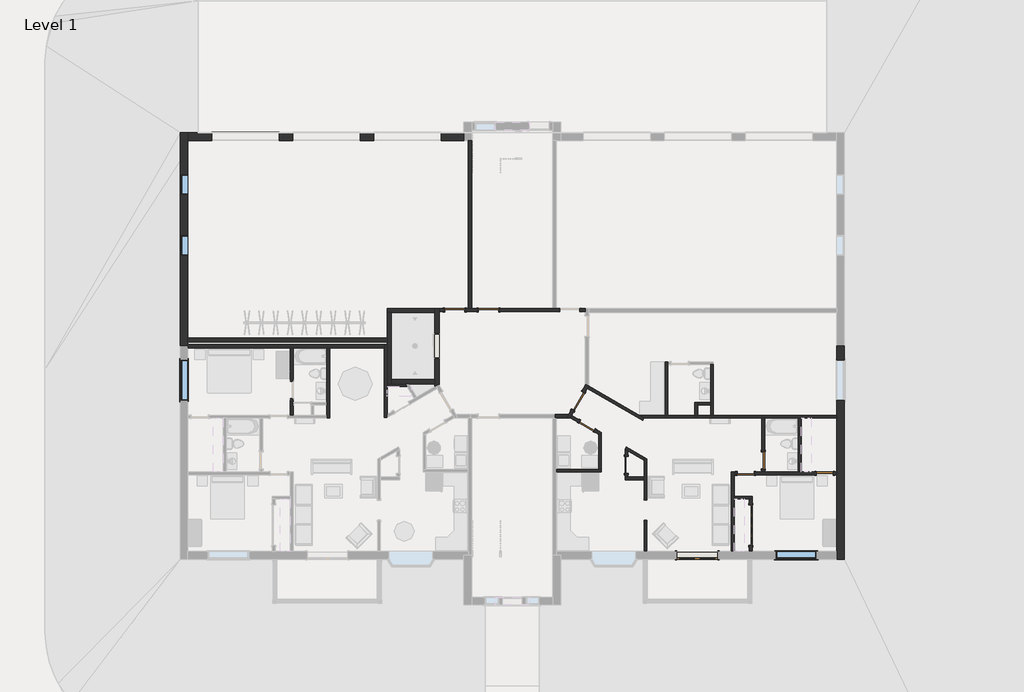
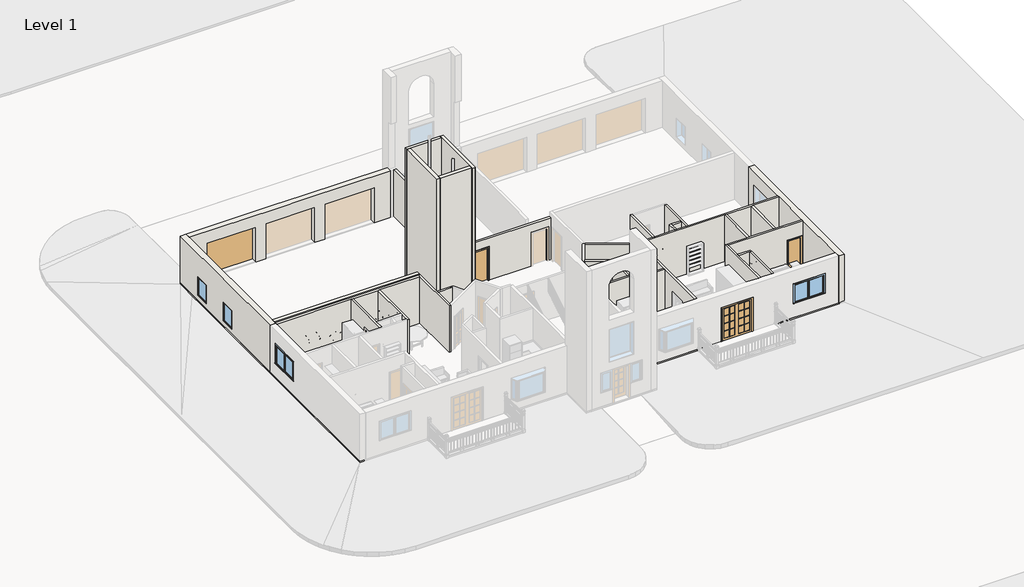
# One storey, part 2 of 4: 38 walls, 11 doors, 4 windows.
"""IFC4 building model written with IfcOpenShell, lengths in millimetres."""

from ifc_helpers import new_model, si_unit, frame, origin, origin_with_axes, place, context, project, spatial, polyline, outline, extrude, faceted_brep, transform, mapped, element, save
from components import door_28b41c19, door_beec499a, door_8fade463, overhead_sectional_10_x_8_f8e7c13f, door_39079f6b, door_e1308624, door_51669b0d, door_3dff5d0e, window_565d5888, window_801eb773, window_15c49d37

model = new_model("IFC4")

# Units and contexts
model_context = context("Model", 3, world=origin())
ifc_project = project(units=[si_unit("LENGTHUNIT", "METRE", prefix="MILLI")], contexts=[model_context])

# Site, building, storey
site = spatial("IfcSite", under=ifc_project)
building = spatial("IfcBuilding", under=site)
storey = spatial("IfcBuildingStorey", under=building, Name="Level 1", Elevation=0.0)

# Doors
placement = place(None, origin())
door_shape = door_28b41c19(model_context)
element("IfcDoor", 1, ObjectType="Bifold-2 Panel : 30\" x 80\"", at=placement, inside=storey, context=model_context, shape_type="MappedRepresentation", body=[
    mapped(door_shape, transform((4512.9374602, -3569.9786799, 0.0), x_axis=(0.0, -1.0, 0.0), y_axis=(1.0, 0.0, 0.0), z_axis=(0.0, 0.0, 1.0))),
])
door_2_shape = door_beec499a(model_context)
element("IfcDoor", 2, ObjectType="Bifold-4 Panel : 72\" x 80\"", at=placement, inside=storey, context=model_context, shape_type="MappedRepresentation", body=[
    mapped(door_2_shape, transform((10123.1624602, -6287.7786799, 0.0), x_axis=(0.0, 1.0, 0.0), y_axis=(-1.0, 0.0, 0.0), z_axis=(0.0, 0.0, 1.0))),
])
door_3_shape = door_8fade463(model_context)
element("IfcDoor", 3, ObjectType="Double-Glass 2 : 72\" x 84\"", at=placement, inside=storey, context=model_context, shape_type="MappedRepresentation", body=[
    mapped(door_3_shape, transform((7708.5749602, -7646.6786799, 0.0), x_axis=(1.0, 0.0, 0.0), y_axis=(0.0, 1.0, 0.0), z_axis=(0.0, 0.0, 1.0))),
])
overhead_sectional_10_x_8_shape = overhead_sectional_10_x_8_f8e7c13f(model_context)
element("IfcDoor", 4, ObjectType="Overhead-Sectional : 10' x 8'", at=placement, inside=storey, context=model_context, shape_type="MappedRepresentation", body=[
    mapped(overhead_sectional_10_x_8_shape, transform((-12668.5750398, 11238.2213201, 0.0), x_axis=(-1.0, 0.0, 0.0), y_axis=(0.0, -1.0, 0.0), z_axis=(0.0, 0.0, 1.0))),
])
door_4_shape = door_39079f6b(model_context)
element("IfcDoor", 5, ObjectType="Single-Flush : 30\" x 80\"", at=placement, inside=storey, context=model_context, shape_type="MappedRepresentation", body=[
    mapped(door_4_shape, transform((9889.7999602, -3954.1536799, 0.0), x_axis=(-1.0, 0.0, 0.0), y_axis=(0.0, -1.0, 0.0), z_axis=(0.0, 0.0, 1.0))),
])
element("IfcDoor", 6, ObjectType="Single-Flush : 30\" x 80\"", at=placement, inside=storey, context=model_context, shape_type="MappedRepresentation", body=[
    mapped(door_4_shape, transform((2740.2368992, -1809.0046321, 0.0), x_axis=(-0.8660254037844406, 0.4999999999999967, 0.0), y_axis=(-0.4999999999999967, -0.8660254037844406, 0.0), z_axis=(0.0, 0.0, 1.0))),
])
element("IfcDoor", 7, ObjectType="Single-Flush : 30\" x 80\"", at=placement, inside=storey, context=model_context, shape_type="MappedRepresentation", body=[
    mapped(door_4_shape, transform((13461.6749602, -3954.1536799, 0.0), x_axis=(1.0, 0.0, 0.0), y_axis=(0.0, 1.0, 0.0), z_axis=(0.0, 0.0, 1.0))),
])
element("IfcDoor", 8, ObjectType="Single-Flush : 30\" x 80\"", at=placement, inside=storey, context=model_context, shape_type="MappedRepresentation", body=[
    mapped(door_4_shape, transform((10685.1374602, -3358.8411799, 0.0), x_axis=(0.0, -1.0, 0.0), y_axis=(1.0, 0.0, 0.0), z_axis=(0.0, 0.0, 1.0))),
])
door_5_shape = door_e1308624(model_context)
element("IfcDoor", 9, ObjectType="Single-Flush : 36\" x 80\"", at=placement, inside=storey, context=model_context, shape_type="MappedRepresentation", body=[
    mapped(door_5_shape, transform((2339.4553258, -687.0786799, 0.0), x_axis=(0.4999999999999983, 0.8660254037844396, 0.0), y_axis=(-0.8660254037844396, 0.4999999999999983, 0.0), z_axis=(0.0, 0.0, 1.0))),
])
door_6_shape = door_51669b0d(model_context)
element("IfcDoor", 10, ObjectType="Single-Flush : 36\" x 84\"", at=placement, inside=storey, context=model_context, shape_type="MappedRepresentation", body=[
    mapped(door_6_shape, transform((-1698.9500398, 3425.0349624, 0.0), x_axis=(-1.0, 0.0, 0.0), y_axis=(0.0, -1.0, 0.0), z_axis=(0.0, 0.0, 1.0))),
])
door_7_shape = door_3dff5d0e(model_context)
element("IfcDoor", 11, ObjectType="Single-Flush : 36\" x 84\"", at=placement, inside=storey, context=model_context, shape_type="MappedRepresentation", body=[
    mapped(door_7_shape, transform((-3226.1250398, 3425.0349624, 0.0), x_axis=(1.0, 0.0, 0.0), y_axis=(0.0, 1.0, 0.0), z_axis=(0.0, 0.0, 1.0))),
])

# Walls
element("IfcWall", 12, ObjectType="Exterior - Brick on Mtl. Stud", at=placement, inside=storey, context=model_context, shape_type="Brep", body=[
    faceted_brep([(-2813.3750398, 11062.0088201, 3048.0), (-8058.4750398, 11062.0088201, 3048.0), (-9887.2750398, 11062.0088201, 3048.0), (-15259.3750398, 11062.0088201, 3048.0), (-15259.3750398, 11062.0088201, 0.0), (-14192.5750398, 11062.0088201, 0.0), (-14192.5750398, 11062.0088201, 2286.0), (-11144.5750398, 11062.0088201, 2286.0), (-11144.5750398, 11062.0088201, 0.0), (-10534.9750398, 11062.0088201, 0.0), (-10534.9750398, 11062.0088201, 2286.0), (-7486.9750398, 11062.0088201, 2286.0), (-7486.9750398, 11062.0088201, 0.0), (-6877.3750398, 11062.0088201, 0.0), (-6877.3750398, 11062.0088201, 2286.0), (-3829.3750398, 11062.0088201, 2286.0), (-3829.3750398, 11062.0088201, 0.0), (-2813.3750398, 11062.0088201, 0.0), (-15259.3750398, 11414.4338201, 3048.0), (-9887.2750398, 11414.4338201, 3048.0), (-8058.4750398, 11414.4338201, 3048.0), (-2813.3750398, 11414.4338201, 3048.0), (-2813.3750398, 11414.4338201, 0.0), (-3829.3750398, 11414.4338201, 0.0), (-3829.3750398, 11414.4338201, 2286.0), (-6877.3750398, 11414.4338201, 2286.0), (-6877.3750398, 11414.4338201, 0.0), (-7486.9750398, 11414.4338201, 0.0), (-7486.9750398, 11414.4338201, 2286.0), (-10534.9750398, 11414.4338201, 2286.0), (-10534.9750398, 11414.4338201, 0.0), (-11144.5750398, 11414.4338201, 0.0), (-11144.5750398, 11414.4338201, 2286.0), (-14192.5750398, 11414.4338201, 2286.0), (-14192.5750398, 11414.4338201, 0.0), (-15259.3750398, 11414.4338201, 0.0), (-2813.3750398, 11238.2213201, 3048.0)], [[[0, 1, 2, 3, 4, 5, 6, 7, 8, 9, 10, 11, 12, 13, 14, 15, 16, 17]], [[18, 19, 20, 21, 22, 23, 24, 25, 26, 27, 28, 29, 30, 31, 32, 33, 34, 35]], [[4, 35, 34, 5]], [[22, 17, 16, 23]], [[8, 31, 30, 9]], [[12, 27, 26, 13]], [[3, 2, 1, 0, 36, 21, 20, 19, 18]], [[4, 3, 18, 35]], [[0, 17, 22, 21, 36]], [[33, 6, 5, 34]], [[6, 33, 32, 7]], [[7, 32, 31, 8]], [[29, 10, 9, 30]], [[10, 29, 28, 11]], [[11, 28, 27, 12]], [[25, 14, 13, 26]], [[14, 25, 24, 15]], [[15, 24, 23, 16]]]),
])
element("IfcWall", 13, ObjectType="Exterior - Brick on Mtl. Stud", at=placement, inside=storey, context=model_context, shape_type="Brep", body=[
    faceted_brep([(-15259.3750398, 1795.7713201, 0.0), (-15259.3750398, 1873.5588201, 0.0), (-15259.3750398, 1975.1588201, 0.0), (-15259.3750398, 2168.8338201, 0.0), (-15259.3750398, 11062.0088201, 0.0), (-15259.3750398, 11414.4338201, 0.0), (-15259.3750398, 11414.4338201, 3048.0), (-15259.3750398, 11062.0088201, 3048.0), (-15259.3750398, 2168.8338201, 3048.0), (-15259.3750398, 1975.1588201, 3048.0), (-15259.3750398, 1873.5588201, 3048.0), (-15259.3750398, 1795.7713201, 3048.0), (-15259.3750398, 6794.8088201, 1524.0), (-15259.3750398, 6794.8088201, 304.8), (-15259.3750398, 5880.4088201, 304.8), (-15259.3750398, 5880.4088201, 1524.0), (-15259.3750398, 9538.0088201, 1524.0), (-15259.3750398, 9538.0088201, 304.8), (-15259.3750398, 8623.6088201, 304.8), (-15259.3750398, 8623.6088201, 1524.0), (-15611.8000398, 1795.7713201, 0.0), (-15611.8000398, 1795.7713201, 3048.0), (-15611.8000398, 11414.4338201, 3048.0), (-15611.8000398, 11414.4338201, 0.0), (-15611.8000398, 6794.8088201, 1524.0), (-15611.8000398, 5880.4088201, 1524.0), (-15611.8000398, 5880.4088201, 304.8), (-15611.8000398, 6794.8088201, 304.8), (-15611.8000398, 9538.0088201, 1524.0), (-15611.8000398, 8623.6088201, 1524.0), (-15611.8000398, 8623.6088201, 304.8), (-15611.8000398, 9538.0088201, 304.8)], [[[0, 1, 2, 3, 4, 5, 6, 7, 8, 9, 10, 11], [12, 13, 14, 15], [16, 17, 18, 19]], [[20, 21, 22, 23], [24, 25, 26, 27], [28, 29, 30, 31]], [[5, 4, 3, 2, 1, 0, 20, 23]], [[11, 10, 9, 8, 7, 6, 22, 21]], [[0, 11, 21, 20]], [[6, 5, 23, 22]], [[13, 12, 24, 27]], [[14, 13, 27, 26]], [[15, 14, 26, 25]], [[12, 15, 25, 24]], [[17, 16, 28, 31]], [[18, 17, 31, 30]], [[19, 18, 30, 29]], [[16, 19, 29, 28]]]),
])
element("IfcWall", 14, ObjectType="Exterior - Brick on Mtl. Stud", at=placement, inside=storey, context=model_context, shape_type="Brep", body=[
    faceted_brep([(13995.0749602, 1795.7713201, 0.0), (13995.0749602, -1330.0161799, 0.0), (13995.0749602, -1453.8411799, 0.0), (13995.0749602, -3892.2411799, 0.0), (13995.0749602, -4016.0661799, 0.0), (13995.0749602, -7470.4661799, 0.0), (13995.0749602, -7822.8911799, 0.0), (13995.0749602, -7822.8911799, 3048.0), (13995.0749602, -7470.4661799, 3048.0), (13995.0749602, -4016.0661799, 3048.0), (13995.0749602, -3892.2411799, 3048.0), (13995.0749602, -1453.8411799, 3048.0), (13995.0749602, -1330.0161799, 3048.0), (13995.0749602, 1795.7713201, 3048.0), (13995.0749602, 1170.2963201, 2133.6), (13995.0749602, -658.5036799, 2133.6), (13995.0749602, -658.5036799, 914.4), (13995.0749602, 1170.2963201, 914.4), (14347.4999602, 1795.7713201, 0.0), (14347.4999602, 1795.7713201, 3048.0), (14347.4999602, -7822.8911799, 3048.0), (14347.4999602, -7822.8911799, 0.0), (14347.4999602, 1170.2963201, 2133.6), (14347.4999602, 1170.2963201, 914.4), (14347.4999602, -658.5036799, 914.4), (14347.4999602, -658.5036799, 2133.6)], [[[0, 1, 2, 3, 4, 5, 6, 7, 8, 9, 10, 11, 12, 13], [14, 15, 16, 17]], [[18, 19, 20, 21], [22, 23, 24, 25]], [[6, 5, 4, 3, 2, 1, 0, 18, 21]], [[13, 12, 11, 10, 9, 8, 7, 20, 19]], [[0, 13, 19, 18]], [[7, 6, 21, 20]], [[23, 22, 14, 17]], [[24, 23, 17, 16]], [[25, 24, 16, 15]], [[22, 25, 15, 14]]]),
])
element("IfcWall", 15, ObjectType="Foundation - 12\" Concrete", at=placement, inside=storey, context=model_context, shape_type="Brep", body=[
    faceted_brep([(-15307.0000398, -7822.8911799, -914.4), (-15307.0000398, -7518.0911799, -914.4), (-15307.0000398, 11109.6338201, -914.4), (-15307.0000398, 11414.4338201, -914.4), (-15307.0000398, 11414.4338201, 0.0), (-15307.0000398, 11109.6338201, 0.0), (-15307.0000398, -7518.0911799, 0.0), (-15307.0000398, -7822.8911799, 0.0), (-15611.8000398, -7822.8911799, -914.4), (-15611.8000398, -7822.8911799, 0.0), (-15611.8000398, 11414.4338201, 0.0), (-15611.8000398, 11414.4338201, -914.4)], [[[0, 1, 2, 3, 4, 5, 6, 7]], [[8, 9, 10, 11]], [[3, 2, 1, 0, 8, 11]], [[7, 6, 5, 4, 10, 9]], [[4, 3, 11, 10]], [[0, 7, 9, 8]]]),
])
element("IfcWall", 16, ObjectType="Foundation - 12\" Concrete", at=placement, inside=storey, context=model_context, shape_type="Brep", body=[
    faceted_brep([(14042.6999602, -7518.0911799, -914.4), (1244.2749602, -7518.0911799, -914.4), (1244.2749602, -7518.0911799, 0.0), (14042.6999602, -7518.0911799, 0.0), (14042.6999602, -7822.8911799, -914.4), (14042.6999602, -7822.8911799, 0.0), (1549.0749602, -7822.8911799, 0.0), (1244.2749602, -7822.8911799, 0.0), (1244.2749602, -7822.8911799, -914.4), (1549.0749602, -7822.8911799, -914.4)], [[[0, 1, 2, 3]], [[4, 5, 6, 7, 8, 9]], [[1, 0, 4, 9, 8]], [[3, 2, 7, 6, 5]], [[0, 3, 5, 4]], [[2, 1, 8, 7]]]),
])
element("IfcWall", 17, ObjectType="Generic - 6\" Masonry", at=placement, inside=storey, context=model_context, shape_type="Brep", body=[
    faceted_brep([(1902.2640513, -1301.4411799, 0.0), (1274.4374602, -1301.4411799, 0.0), (1274.4374602, -1301.4411799, 2743.2), (1196.6499602, -1301.4411799, 2743.2), (1196.6499602, -1301.4411799, 3048.0), (1274.4374602, -1301.4411799, 3048.0), (1902.2640513, -1301.4411799, 3048.0), (1819.7751316, -1444.3161799, 0.0), (1819.7751316, -1444.3161799, 3048.0), (1352.2249602, -1444.3161799, 3048.0), (1274.4374602, -1444.3161799, 3048.0), (1196.6499602, -1444.3161799, 3048.0), (1196.6499602, -1444.3161799, 2743.2), (1274.4374602, -1444.3161799, 2743.2), (1274.4374602, -1444.3161799, 0.0), (1352.2249602, -1444.3161799, 0.0)], [[[0, 1, 2, 3, 4, 5, 6]], [[7, 8, 9, 10, 11, 12, 13, 14, 15]], [[1, 0, 7, 15, 14]], [[6, 5, 4, 11, 10, 9, 8]], [[0, 6, 8, 7]], [[2, 1, 14, 13]], [[12, 3, 2, 13]], [[4, 3, 12, 11]]]),
])
element("IfcWall", 18, ObjectType="Generic - 6\" Masonry", at=placement, inside=storey, context=model_context, shape_type="Brep", body=[
    faceted_brep([(2686.6690032, 57.1880504, 0.0), (2667.5273827, 24.0337913, 0.0), (2506.188636, -255.4131153, 0.0), (2506.188636, -255.4131153, 2032.0), (2048.988636, -1047.3067445, 2032.0), (2048.988636, -1047.3067445, 0.0), (1902.2640513, -1301.4411799, 0.0), (1819.7751316, -1444.3161799, 0.0), (1819.7751316, -1444.3161799, 3048.0), (1902.2640513, -1301.4411799, 3048.0), (2048.988636, -1047.3067445, 3048.0), (2506.188636, -255.4131153, 3048.0), (2667.5273827, 24.0337913, 3048.0), (2686.6690032, 57.1880504, 3048.0), (2629.9220156, -326.8506153, 2032.0), (2629.9220156, -326.8506153, 0.0), (2748.4898827, -121.4850452, 0.0), (2810.4023827, -14.2494496, 0.0), (2810.4023827, -14.2494496, 3048.0), (2748.4898827, -121.4850452, 3048.0), (2629.9220156, -326.8506153, 3048.0), (2172.7220156, -1118.7442445, 3048.0), (2046.665471, -1337.0805843, 3048.0), (1984.752971, -1444.3161799, 3048.0), (1984.752971, -1444.3161799, 0.0), (2046.665471, -1337.0805843, 0.0), (2172.7220156, -1118.7442445, 0.0), (2172.7220156, -1118.7442445, 2032.0)], [[[0, 1, 2, 3, 4, 5, 6, 7, 8, 9, 10, 11, 12, 13]], [[14, 15, 16, 17, 18, 19, 20, 21, 22, 23, 24, 25, 26, 27]], [[17, 16, 15, 2, 1, 0]], [[26, 25, 24, 7, 6, 5]], [[13, 12, 11, 10, 9, 8, 23, 22, 21, 20, 19, 18]], [[8, 7, 24, 23]], [[0, 13, 18, 17]], [[3, 2, 15, 14]], [[4, 3, 14, 27]], [[5, 4, 27, 26]]]),
])
element("IfcWall", 19, ObjectType="Generic - 6\" Masonry", at=placement, inside=storey, context=model_context, shape_type="Brep", body=[
    faceted_brep([(-1241.7500398, 3353.5974624, 0.0), (1504.6249602, 3353.5974624, 0.0), (1504.6249602, 3353.5974624, 2133.6), (2419.0249602, 3353.5974624, 2133.6), (2419.0249602, 3353.5974624, 0.0), (2667.5273827, 3353.5974624, 0.0), (2667.5273827, 3353.5974624, 2743.2), (-3931.8274624, 3353.5974624, 2743.2), (-3931.8274624, 3353.5974624, 0.0), (-3683.3250398, 3353.5974624, 0.0), (-3683.3250398, 3353.5974624, 2133.6), (-2768.9250398, 3353.5974624, 2133.6), (-2768.9250398, 3353.5974624, 0.0), (-2156.1500398, 3353.5974624, 0.0), (-2156.1500398, 3353.5974624, 2133.6), (-1241.7500398, 3353.5974624, 2133.6), (1504.6249602, 3496.4724624, 2133.6), (1504.6249602, 3496.4724624, 0.0), (1352.2249602, 3496.4724624, 0.0), (1196.6499602, 3496.4724624, 0.0), (-1241.7500398, 3496.4724624, 0.0), (-1241.7500398, 3496.4724624, 2133.6), (-2156.1500398, 3496.4724624, 2133.6), (-2156.1500398, 3496.4724624, 0.0), (-2460.9500398, 3496.4724624, 0.0), (-2616.5250398, 3496.4724624, 0.0), (-2768.9250398, 3496.4724624, 0.0), (-2768.9250398, 3496.4724624, 2133.6), (-3683.3250398, 3496.4724624, 2133.6), (-3683.3250398, 3496.4724624, 0.0), (-3931.8274624, 3496.4724624, 0.0), (-3931.8274624, 3496.4724624, 2743.2), (2667.5273827, 3496.4724624, 2743.2), (2667.5273827, 3496.4724624, 0.0), (2419.0249602, 3496.4724624, 0.0), (2419.0249602, 3496.4724624, 2133.6)], [[[0, 1, 2, 3, 4, 5, 6, 7, 8, 9, 10, 11, 12, 13, 14, 15]], [[16, 17, 18, 19, 20, 21, 22, 23, 24, 25, 26, 27, 28, 29, 30, 31, 32, 33, 34, 35]], [[9, 8, 30, 29]], [[13, 12, 26, 25, 24, 23]], [[34, 33, 5, 4]], [[20, 19, 18, 17, 1, 0]], [[14, 13, 23, 22]], [[15, 14, 22, 21]], [[0, 15, 21, 20]], [[8, 7, 31, 30]], [[6, 5, 33, 32]], [[27, 26, 12, 11]], [[28, 27, 11, 10]], [[29, 28, 10, 9]], [[2, 1, 17, 16]], [[3, 2, 16, 35]], [[4, 3, 35, 34]], [[7, 6, 32, 31]]]),
])
element("IfcWall", 20, ObjectType="Generic - 8\" Masonry", at=placement, inside=storey, context=model_context, shape_type="Brep", body=[
    faceted_brep([(-6277.3000398, 3302.7974624, -1219.2), (-6277.3000398, 95.0701778, -1219.2), (-6277.3000398, 95.0701778, 10363.2), (-6277.3000398, 3302.7974624, 10363.2), (-6083.6250398, 3302.7974624, -1219.2), (-6083.6250398, 3302.7974624, 10363.2), (-6083.6250398, 288.7451778, 10363.2), (-6083.6250398, 95.0701778, 10363.2), (-6083.6250398, 95.0701778, -1219.2), (-6083.6250398, 288.7451778, -1219.2)], [[[0, 1, 2, 3]], [[4, 5, 6, 7, 8, 9]], [[1, 0, 4, 9, 8]], [[3, 2, 7, 6, 5]], [[2, 1, 8, 7]], [[0, 3, 5, 4]]]),
])
element("IfcWall", 21, ObjectType="Generic - 8\" Masonry", at=placement, inside=storey, context=model_context, shape_type="SweptSolid", body=[
    extrude(outline(polyline([(-4125.5024624, 95.0701778), (-6083.6250398, 95.0701778), (-6083.6250398, 288.7451778), (-4125.5024624, 288.7451778), (-4125.5024624, 95.0701778)])), frame((0.0, 0.0, -1219.2), z_axis=(0.0, 0.0, 1.0), x_axis=(1.0, 0.0, 0.0)), (0.0, 0.0, 1.0), 11582.4),
])
element("IfcWall", 22, ObjectType="Generic - 8\" Masonry", at=placement, inside=storey, context=model_context, shape_type="Brep", body=[
    faceted_brep([(-6277.3000398, 3302.7974624, -1219.2), (-6083.6250398, 3302.7974624, -1219.2), (-4125.5024624, 3302.7974624, -1219.2), (-4125.5024624, 3302.7974624, 10363.2), (-6083.6250398, 3302.7974624, 10363.2), (-6277.3000398, 3302.7974624, 10363.2), (-6277.3000398, 3496.4724624, -1219.2), (-6277.3000398, 3496.4724624, 10363.2), (-4125.5024624, 3496.4724624, 10363.2), (-4125.5024624, 3496.4724624, -1219.2)], [[[0, 1, 2, 3, 4, 5]], [[6, 7, 8, 9]], [[2, 1, 0, 6, 9]], [[5, 4, 3, 8, 7]], [[0, 5, 7, 6]], [[2, 9, 8, 3]]]),
])
element("IfcWall", 23, ObjectType="Generic - 8\" Masonry", at=placement, inside=storey, context=model_context, shape_type="Brep", body=[
    faceted_brep([(-3931.8274624, 24.0337913, -1219.2), (-3931.8274624, 3496.4724624, -1219.2), (-3931.8274624, 3496.4724624, 0.0), (-3931.8274624, 3496.4724624, 2743.2), (-3931.8274624, 3496.4724624, 10363.2), (-3931.8274624, 24.0337913, 10363.2), (-3931.8274624, 2379.9713201, 2489.2), (-3931.8274624, 2379.9713201, 0.0), (-3931.8274624, 1211.5713201, 0.0), (-3931.8274624, 1211.5713201, 2489.2), (-3931.8274624, 2379.9713201, 5537.2), (-3931.8274624, 2379.9713201, 3048.0), (-3931.8274624, 1211.5713201, 3048.0), (-3931.8274624, 1211.5713201, 5537.2), (-3931.8274624, 2379.9713201, 8585.2), (-3931.8274624, 2379.9713201, 6096.0), (-3931.8274624, 1211.5713201, 6096.0), (-3931.8274624, 1211.5713201, 8585.2), (-4125.5024624, 3496.4724624, -1219.2), (-4125.5024624, 3302.7974624, -1219.2), (-4125.5024624, 288.7451778, -1219.2), (-4125.5024624, 95.0701778, -1219.2), (-4125.5024624, -43.5788433, -1219.2), (-4125.5024624, -43.5788433, 10363.2), (-4125.5024624, 95.0701778, 10363.2), (-4125.5024624, 288.7451778, 10363.2), (-4125.5024624, 3302.7974624, 10363.2), (-4125.5024624, 3496.4724624, 10363.2), (-4125.5024624, 2379.9713201, 0.0), (-4125.5024624, 2379.9713201, 2489.2), (-4125.5024624, 1211.5713201, 2489.2), (-4125.5024624, 1211.5713201, 0.0), (-4125.5024624, 2379.9713201, 3048.0), (-4125.5024624, 2379.9713201, 5537.2), (-4125.5024624, 1211.5713201, 5537.2), (-4125.5024624, 1211.5713201, 3048.0), (-4125.5024624, 2379.9713201, 6096.0), (-4125.5024624, 2379.9713201, 8585.2), (-4125.5024624, 1211.5713201, 8585.2), (-4125.5024624, 1211.5713201, 6096.0), (-3950.9690828, 57.1880504, -1219.2), (-3950.9690828, 57.1880504, 10363.2), (-3950.9690828, 57.1880504, 0.0), (-3950.9690828, 57.1880504, 3048.0), (-3950.9690828, 57.1880504, 6096.0), (-3950.9690828, 57.1880504, 9144.0)], [[[0, 1, 2, 3, 4, 5], [6, 7, 8, 9], [10, 11, 12, 13], [14, 15, 16, 17]], [[18, 19, 20, 21, 22, 23, 24, 25, 26, 27], [28, 29, 30, 31], [32, 33, 34, 35], [36, 37, 38, 39]], [[1, 0, 40, 22, 21, 20, 19, 18]], [[5, 4, 27, 26, 25, 24, 23, 41]], [[28, 7, 6, 29]], [[29, 6, 9, 30]], [[30, 9, 8, 31]], [[7, 28, 31, 8]], [[41, 23, 22, 40, 42, 43, 44, 45]], [[5, 41, 45, 44, 43, 42, 40, 0]], [[33, 32, 11, 10]], [[34, 33, 10, 13]], [[35, 34, 13, 12]], [[32, 35, 12, 11]], [[37, 36, 15, 14]], [[38, 37, 14, 17]], [[39, 38, 17, 16]], [[36, 39, 16, 15]], [[1, 18, 27, 4, 3, 2]]]),
])
element("IfcWall", 24, ObjectType="Generic - 8\" Masonry", at=placement, inside=storey, context=model_context, shape_type="SweptSolid", body=[
    extrude(outline(polyline([(-6277.3000398, 1975.1588201), (-15259.3750398, 1975.1588201), (-15259.3750398, 2168.8338201), (-6277.3000398, 2168.8338201), (-6277.3000398, 1975.1588201)])), origin_with_axes(), (0.0, 0.0, 1.0), 3048.0),
])
element("IfcWall", 25, ObjectType="Interior - 4 7/8\" Partition (1-hr)", at=placement, inside=storey, context=model_context, shape_type="Brep", body=[
    faceted_brep([(-10512.7500398, -1330.0161799, 0.0), (-10512.7500398, -869.6411799, 0.0), (-10512.7500398, -745.8161799, 0.0), (-10512.7500398, -564.8411799, 0.0), (-10512.7500398, -564.8411799, 2032.0), (-10512.7500398, 197.1588201, 2032.0), (-10512.7500398, 197.1588201, 0.0), (-10512.7500398, 1717.9838201, 0.0), (-10512.7500398, 1717.9838201, 3048.0), (-10512.7500398, -745.8161799, 3048.0), (-10512.7500398, -869.6411799, 3048.0), (-10512.7500398, -1330.0161799, 3048.0), (-10636.5750398, -564.8411799, 2032.0), (-10636.5750398, -564.8411799, 0.0), (-10636.5750398, -1330.0161799, 0.0), (-10636.5750398, -1330.0161799, 3048.0), (-10636.5750398, 1717.9838201, 3048.0), (-10636.5750398, 1717.9838201, 0.0), (-10636.5750398, 197.1588201, 0.0), (-10636.5750398, 197.1588201, 2032.0)], [[[0, 1, 2, 3, 4, 5, 6, 7, 8, 9, 10, 11]], [[12, 13, 14, 15, 16, 17, 18, 19]], [[14, 13, 3, 2, 1, 0]], [[18, 17, 7, 6]], [[11, 10, 9, 8, 16, 15]], [[8, 7, 17, 16]], [[0, 11, 15, 14]], [[4, 3, 13, 12]], [[5, 4, 12, 19]], [[6, 5, 19, 18]]]),
])
element("IfcWall", 26, ObjectType="Interior - 4 7/8\" Partition (1-hr)", at=placement, inside=storey, context=model_context, shape_type="Brep", body=[
    faceted_brep([(-8864.9250398, -1453.8411799, 0.0), (-8864.9250398, 1717.9838201, 0.0), (-8864.9250398, 1717.9838201, 3048.0), (-8864.9250398, -1453.8411799, 3048.0), (-8988.7500398, -1453.8411799, 0.0), (-8988.7500398, -1453.8411799, 3048.0), (-8988.7500398, -1330.0161799, 3048.0), (-8988.7500398, -869.6411799, 3048.0), (-8988.7500398, -745.8161799, 3048.0), (-8988.7500398, 1717.9838201, 3048.0), (-8988.7500398, 1717.9838201, 0.0), (-8988.7500398, -745.8161799, 0.0), (-8988.7500398, -869.6411799, 0.0), (-8988.7500398, -1330.0161799, 0.0)], [[[0, 1, 2, 3]], [[4, 5, 6, 7, 8, 9, 10, 11, 12, 13]], [[1, 0, 4, 13, 12, 11, 10]], [[3, 2, 9, 8, 7, 6, 5]], [[0, 3, 5, 4]], [[2, 1, 10, 9]]]),
])
element("IfcWall", 27, ObjectType="Interior - 4 7/8\" Partition (1-hr)", at=placement, inside=storey, context=model_context, shape_type="Brep", body=[
    faceted_brep([(-6277.3000398, -1428.900548, 0.0), (-6277.3000398, -1285.9197539, 0.0), (-6277.3000398, -28.7548222, 0.0), (-6277.3000398, 95.0701778, 0.0), (-6277.3000398, 1873.5588201, 0.0), (-6277.3000398, 1873.5588201, 3048.0), (-6277.3000398, 95.0701778, 3048.0), (-6277.3000398, -28.7548222, 3048.0), (-6277.3000398, -1285.9197539, 3048.0), (-6277.3000398, -1428.900548, 3048.0), (-6401.1250398, -1428.900548, 0.0), (-6401.1250398, -1428.900548, 3048.0), (-6401.1250398, 1717.9838201, 3048.0), (-6401.1250398, 1873.5588201, 3048.0), (-6401.1250398, 1873.5588201, 0.0), (-6401.1250398, 1717.9838201, 0.0)], [[[0, 1, 2, 3, 4, 5, 6, 7, 8, 9]], [[10, 11, 12, 13, 14, 15]], [[4, 3, 2, 1, 0, 10, 15, 14]], [[9, 8, 7, 6, 5, 13, 12, 11]], [[0, 9, 11, 10]], [[5, 4, 14, 13]]]),
])
element("IfcWall", 28, ObjectType="Interior - 4 7/8\" Partition (1-hr)", at=placement, inside=storey, context=model_context, shape_type="SweptSolid", body=[
    extrude(outline(polyline([(-6277.3000398, 95.0701778), (-5439.310023, 95.0701778), (-5367.8196259, -28.7548222), (-6277.3000398, -28.7548222), (-6277.3000398, 95.0701778)])), origin_with_axes(), (0.0, 0.0, 1.0), 3048.0),
])
element("IfcWall", 29, ObjectType="Interior - 4 7/8\" Partition (1-hr)", at=placement, inside=storey, context=model_context, shape_type="Brep", body=[
    faceted_brep([(5438.4499602, -7470.4661799, 0.0), (5438.4499602, -6071.8786799, 0.0), (5438.4499602, -6071.8786799, 2032.0), (5438.4499602, -5157.4786799, 2032.0), (5438.4499602, -5157.4786799, 0.0), (5438.4499602, -3295.3282721, 0.0), (5438.4499602, -3295.3282721, 3048.0), (5438.4499602, -7470.4661799, 3048.0), (5314.6249602, -6071.8786799, 2032.0), (5314.6249602, -6071.8786799, 0.0), (5314.6249602, -7470.4661799, 0.0), (5314.6249602, -7470.4661799, 3048.0), (5314.6249602, -4244.6661799, 3048.0), (5314.6249602, -4120.8411799, 3048.0), (5314.6249602, -3366.8186692, 3048.0), (5314.6249602, -3223.8378751, 3048.0), (5314.6249602, -3223.8378751, 0.0), (5314.6249602, -3366.8186692, 0.0), (5314.6249602, -4120.8411799, 0.0), (5314.6249602, -4244.6661799, 0.0), (5314.6249602, -5157.4786799, 0.0), (5314.6249602, -5157.4786799, 2032.0)], [[[0, 1, 2, 3, 4, 5, 6, 7]], [[8, 9, 10, 11, 12, 13, 14, 15, 16, 17, 18, 19, 20, 21]], [[10, 9, 1, 0]], [[20, 19, 18, 17, 16, 5, 4]], [[7, 6, 15, 14, 13, 12, 11]], [[0, 7, 11, 10]], [[6, 5, 16, 15]], [[4, 3, 21, 20]], [[2, 1, 9, 8]], [[3, 2, 8, 21]]]),
])
element("IfcWall", 30, ObjectType="Interior - 4 7/8\" Partition (1-hr)", at=placement, inside=storey, context=model_context, shape_type="Brep", body=[
    faceted_brep([(9372.2749602, -7470.4661799, 0.0), (9372.2749602, -5105.0911799, 0.0), (9372.2749602, -4981.2661799, 0.0), (9372.2749602, -4016.0661799, 0.0), (9372.2749602, -3892.2411799, 0.0), (9372.2749602, -3892.2411799, 3048.0), (9372.2749602, -4016.0661799, 3048.0), (9372.2749602, -4981.2661799, 3048.0), (9372.2749602, -5105.0911799, 3048.0), (9372.2749602, -7470.4661799, 3048.0), (9248.4499602, -7470.4661799, 0.0), (9248.4499602, -7470.4661799, 3048.0), (9248.4499602, -3892.2411799, 3048.0), (9248.4499602, -3892.2411799, 0.0)], [[[0, 1, 2, 3, 4, 5, 6, 7, 8, 9]], [[10, 11, 12, 13]], [[4, 3, 2, 1, 0, 10, 13]], [[9, 8, 7, 6, 5, 12, 11]], [[5, 4, 13, 12]], [[0, 9, 11, 10]]]),
])
element("IfcWall", 31, ObjectType="Interior - 4 7/8\" Partition (1-hr)", at=placement, inside=storey, context=model_context, shape_type="Brep", body=[
    faceted_brep([(13842.6749602, -4016.0661799, 2032.0), (13842.6749602, -4016.0661799, 0.0), (13995.0749602, -4016.0661799, 0.0), (13995.0749602, -4016.0661799, 3048.0), (9372.2749602, -4016.0661799, 3048.0), (9372.2749602, -4016.0661799, 0.0), (9508.7999602, -4016.0661799, 0.0), (9508.7999602, -4016.0661799, 2032.0), (10270.7999602, -4016.0661799, 2032.0), (10270.7999602, -4016.0661799, 0.0), (13080.6749602, -4016.0661799, 0.0), (13080.6749602, -4016.0661799, 2032.0), (13995.0749602, -3892.2411799, 0.0), (13842.6749602, -3892.2411799, 0.0), (13842.6749602, -3892.2411799, 2032.0), (13080.6749602, -3892.2411799, 2032.0), (13080.6749602, -3892.2411799, 0.0), (12394.8749602, -3892.2411799, 0.0), (12271.0499602, -3892.2411799, 0.0), (10747.0499602, -3892.2411799, 0.0), (10623.2249602, -3892.2411799, 0.0), (10270.7999602, -3892.2411799, 0.0), (10270.7999602, -3892.2411799, 2032.0), (9508.7999602, -3892.2411799, 2032.0), (9508.7999602, -3892.2411799, 0.0), (9372.2749602, -3892.2411799, 0.0), (9372.2749602, -3892.2411799, 3048.0), (10623.2249602, -3892.2411799, 3048.0), (10747.0499602, -3892.2411799, 3048.0), (12271.0499602, -3892.2411799, 3048.0), (12394.8749602, -3892.2411799, 3048.0), (13995.0749602, -3892.2411799, 3048.0)], [[[0, 1, 2, 3, 4, 5, 6, 7, 8, 9, 10, 11]], [[12, 13, 14, 15, 16, 17, 18, 19, 20, 21, 22, 23, 24, 25, 26, 27, 28, 29, 30, 31]], [[25, 24, 6, 5]], [[2, 1, 13, 12]], [[10, 9, 21, 20, 19, 18, 17, 16]], [[4, 3, 31, 30, 29, 28, 27, 26]], [[5, 4, 26, 25]], [[3, 2, 12, 31]], [[7, 6, 24, 23]], [[8, 7, 23, 22]], [[9, 8, 22, 21]], [[14, 13, 1, 0]], [[15, 14, 0, 11]], [[16, 15, 11, 10]]]),
])
element("IfcWall", 32, ObjectType="Interior - 4 7/8\" Partition (1-hr)", at=placement, inside=storey, context=model_context, shape_type="SweptSolid", body=[
    extrude(outline(polyline([(-3739.8411799, 2032.0), (-3739.8411799, 0.0), (-3892.2411799, 0.0), (-3892.2411799, 3048.0), (-1453.8411799, 3048.0), (-1453.8411799, 0.0), (-2977.8411799, 0.0), (-2977.8411799, 2032.0), (-3739.8411799, 2032.0)])), frame((10623.2249602, 0.0, 0.0), z_axis=(1.0, 0.0, 0.0), x_axis=(0.0, 1.0, 0.0)), (0.0, 0.0, 1.0), 123.825),
])
element("IfcWall", 33, ObjectType="Interior - 4 7/8\" Partition (1-hr)", at=placement, inside=storey, context=model_context, shape_type="Brep", body=[
    faceted_brep([(9372.2749602, -5105.0911799, 0.0), (10061.2499602, -5105.0911799, 0.0), (10185.0749602, -5105.0911799, 0.0), (10185.0749602, -5105.0911799, 3048.0), (10061.2499602, -5105.0911799, 3048.0), (9372.2749602, -5105.0911799, 3048.0), (9372.2749602, -4981.2661799, 0.0), (9372.2749602, -4981.2661799, 3048.0), (10185.0749602, -4981.2661799, 3048.0), (10185.0749602, -4981.2661799, 0.0)], [[[0, 1, 2, 3, 4, 5]], [[6, 7, 8, 9]], [[2, 1, 0, 6, 9]], [[5, 4, 3, 8, 7]], [[3, 2, 9, 8]], [[0, 5, 7, 6]]]),
])
element("IfcWall", 34, ObjectType="Interior - 4 7/8\" Partition (1-hr)", at=placement, inside=storey, context=model_context, shape_type="SweptSolid", body=[
    extrude(outline(polyline([(-5105.0911799, 0.0), (-5373.3786799, 0.0), (-5373.3786799, 2032.0), (-7202.1786799, 2032.0), (-7202.1786799, 0.0), (-7470.4661799, 0.0), (-7470.4661799, 3048.0), (-5105.0911799, 3048.0), (-5105.0911799, 0.0)])), frame((10061.2499602, 0.0, 0.0), z_axis=(1.0, 0.0, 0.0), x_axis=(0.0, 1.0, 0.0)), (0.0, 0.0, 1.0), 123.825),
])
element("IfcWall", 35, ObjectType="Interior - 4 7/8\" Partition (1-hr)", at=placement, inside=storey, context=model_context, shape_type="SweptSolid", body=[
    extrude(outline(polyline([(12394.8749602, -1453.8411799), (12394.8749602, -3892.2411799), (12271.0499602, -3892.2411799), (12271.0499602, -1453.8411799), (12394.8749602, -1453.8411799)])), origin_with_axes(), (0.0, 0.0, 1.0), 3048.0),
])
element("IfcWall", 36, ObjectType="Interior - 4 7/8\" Partition (1-hr)", at=placement, inside=storey, context=model_context, shape_type="Brep", body=[
    faceted_brep([(13995.0749602, -1330.0161799, 0.0), (8435.6499602, -1330.0161799, 0.0), (8311.8249602, -1330.0161799, 0.0), (7724.4499602, -1330.0161799, 0.0), (7600.6249602, -1330.0161799, 0.0), (6381.4249602, -1330.0161799, 0.0), (6257.5999602, -1330.0161799, 0.0), (5089.3772105, -1330.0161799, 0.0), (5089.3772105, -1330.0161799, 3048.0), (6257.5999602, -1330.0161799, 3048.0), (6381.4249602, -1330.0161799, 3048.0), (7600.6249602, -1330.0161799, 3048.0), (7724.4499602, -1330.0161799, 3048.0), (8311.8249602, -1330.0161799, 3048.0), (8435.6499602, -1330.0161799, 3048.0), (13995.0749602, -1330.0161799, 3048.0), (13995.0749602, -1453.8411799, 0.0), (13995.0749602, -1453.8411799, 3048.0), (12394.8749602, -1453.8411799, 3048.0), (12271.0499602, -1453.8411799, 3048.0), (10747.0499602, -1453.8411799, 3048.0), (10623.2249602, -1453.8411799, 3048.0), (5303.8484018, -1453.8411799, 3048.0), (5303.8484018, -1453.8411799, 0.0), (10623.2249602, -1453.8411799, 0.0), (10747.0499602, -1453.8411799, 0.0), (12271.0499602, -1453.8411799, 0.0), (12394.8749602, -1453.8411799, 0.0)], [[[0, 1, 2, 3, 4, 5, 6, 7, 8, 9, 10, 11, 12, 13, 14, 15]], [[16, 17, 18, 19, 20, 21, 22, 23, 24, 25, 26, 27]], [[7, 6, 5, 4, 3, 2, 1, 0, 16, 27, 26, 25, 24, 23]], [[15, 14, 13, 12, 11, 10, 9, 8, 22, 21, 20, 19, 18, 17]], [[0, 15, 17, 16]], [[8, 7, 23, 22]]]),
])
element("IfcWall", 37, ObjectType="Interior - 4 7/8\" Partition (1-hr)", at=placement, inside=storey, context=model_context, shape_type="Brep", body=[
    faceted_brep([(7724.4499602, -1330.0161799, 0.0), (7724.4499602, -869.6411799, 0.0), (7724.4499602, -745.8161799, 0.0), (7724.4499602, -745.8161799, 3048.0), (7724.4499602, -869.6411799, 3048.0), (7724.4499602, -1330.0161799, 3048.0), (7600.6249602, -1330.0161799, 0.0), (7600.6249602, -1330.0161799, 3048.0), (7600.6249602, -745.8161799, 3048.0), (7600.6249602, -745.8161799, 0.0)], [[[0, 1, 2, 3, 4, 5]], [[6, 7, 8, 9]], [[2, 1, 0, 6, 9]], [[5, 4, 3, 8, 7]], [[3, 2, 9, 8]], [[0, 5, 7, 6]]]),
])
element("IfcWall", 38, ObjectType="Interior - 4 7/8\" Partition (1-hr)", at=placement, inside=storey, context=model_context, shape_type="Brep", body=[
    faceted_brep([(5314.6249602, -4120.8411799, 0.0), (4574.8499602, -4120.8411799, 0.0), (4451.0249602, -4120.8411799, 0.0), (4451.0249602, -4120.8411799, 3048.0), (4574.8499602, -4120.8411799, 3048.0), (5314.6249602, -4120.8411799, 3048.0), (5314.6249602, -4244.6661799, 0.0), (5314.6249602, -4244.6661799, 3048.0), (4451.0249602, -4244.6661799, 3048.0), (4451.0249602, -4244.6661799, 0.0)], [[[0, 1, 2, 3, 4, 5]], [[6, 7, 8, 9]], [[2, 1, 0, 6, 9]], [[5, 4, 3, 8, 7]], [[3, 2, 9, 8]], [[0, 5, 7, 6]]]),
])
element("IfcWall", 39, ObjectType="Interior - 4 7/8\" Partition (1-hr)", at=placement, inside=storey, context=model_context, shape_type="Brep", body=[
    faceted_brep([(4574.8499602, -4120.8411799, 0.0), (4574.8499602, -3950.9786799, 0.0), (4574.8499602, -3950.9786799, 2032.0), (4574.8499602, -3188.9786799, 2032.0), (4574.8499602, -3188.9786799, 0.0), (4574.8499602, -2939.7093738, 0.0), (4574.8499602, -2939.7093738, 3048.0), (4574.8499602, -4120.8411799, 3048.0), (4451.0249602, -3950.9786799, 2032.0), (4451.0249602, -3950.9786799, 0.0), (4451.0249602, -4120.8411799, 0.0), (4451.0249602, -4120.8411799, 3048.0), (4451.0249602, -2868.2189767, 3048.0), (4451.0249602, -2868.2189767, 0.0), (4451.0249602, -3188.9786799, 0.0), (4451.0249602, -3188.9786799, 2032.0)], [[[0, 1, 2, 3, 4, 5, 6, 7]], [[8, 9, 10, 11, 12, 13, 14, 15]], [[10, 9, 1, 0]], [[14, 13, 5, 4]], [[7, 6, 12, 11]], [[0, 7, 11, 10]], [[6, 5, 13, 12]], [[2, 1, 9, 8]], [[3, 2, 8, 15]], [[4, 3, 15, 14]]]),
])
element("IfcWall", 40, ObjectType="Interior - 4 7/8\" Partition (1-hr)", at=placement, inside=storey, context=model_context, shape_type="Brep", body=[
    faceted_brep([(1984.752971, -1444.3161799, 0.0), (2379.3249703, -1672.1224299, 0.0), (2379.3249703, -1672.1224299, 2032.0), (3039.236328, -2053.1224299, 2032.0), (3039.236328, -2053.1224299, 0.0), (3260.3999602, -2180.8113125, 0.0), (3384.2249602, -2252.3017096, 0.0), (3384.2249602, -2252.3017096, 3048.0), (3260.3999602, -2180.8113125, 3048.0), (3039.236328, -2053.1224299, 3048.0), (2379.3249703, -1672.1224299, 3048.0), (1984.752971, -1444.3161799, 3048.0), (2441.2374703, -1564.8868343, 2032.0), (2441.2374703, -1564.8868343, 0.0), (2046.665471, -1337.0805843, 0.0), (2046.665471, -1337.0805843, 3048.0), (2441.2374703, -1564.8868343, 3048.0), (3101.148828, -1945.8868343, 3048.0), (3384.2249602, -2109.3209154, 3048.0), (3384.2249602, -2109.3209154, 0.0), (3101.148828, -1945.8868343, 0.0), (3101.148828, -1945.8868343, 2032.0)], [[[0, 1, 2, 3, 4, 5, 6, 7, 8, 9, 10, 11]], [[12, 13, 14, 15, 16, 17, 18, 19, 20, 21]], [[14, 13, 1, 0]], [[20, 19, 6, 5, 4]], [[11, 10, 9, 8, 7, 18, 17, 16, 15]], [[0, 11, 15, 14]], [[7, 6, 19, 18]], [[2, 1, 13, 12]], [[3, 2, 12, 21]], [[4, 3, 21, 20]]]),
])
element("IfcWall", 41, ObjectType="Interior - 4 7/8\" Partition (1-hr)", at=placement, inside=storey, context=model_context, shape_type="Brep", body=[
    faceted_brep([(3384.2249602, -3765.2411799, 0.0), (3260.3999602, -3765.2411799, 0.0), (1352.2249602, -3765.2411799, 0.0), (1352.2249602, -3765.2411799, 3048.0), (3260.3999602, -3765.2411799, 3048.0), (3384.2249602, -3765.2411799, 3048.0), (3384.2249602, -3889.0661799, 0.0), (3384.2249602, -3889.0661799, 3048.0), (1352.2249602, -3889.0661799, 3048.0), (1352.2249602, -3889.0661799, 0.0)], [[[0, 1, 2, 3, 4, 5]], [[6, 7, 8, 9]], [[2, 1, 0, 6, 9]], [[5, 4, 3, 8, 7]], [[0, 5, 7, 6]], [[3, 2, 9, 8]]]),
])
element("IfcWall", 42, ObjectType="Interior - 4 7/8\" Partition (1-hr)", at=placement, inside=storey, context=model_context, shape_type="SweptSolid", body=[
    extrude(outline(polyline([(3384.2249602, -2252.3017096), (3384.2249602, -3765.2411799), (3260.3999602, -3765.2411799), (3260.3999602, -2180.8113125), (3384.2249602, -2252.3017096)])), origin_with_axes(), (0.0, 0.0, 1.0), 3048.0),
])
element("IfcWall", 43, ObjectType="Interior - 4 7/8\" Partition (1-hr)", at=placement, inside=storey, context=model_context, shape_type="Brep", body=[
    faceted_brep([(4451.0249602, -2868.2189767, 0.0), (4574.8499602, -2939.7093738, 0.0), (5314.6249602, -3366.8186692, 0.0), (5314.6249602, -3366.8186692, 3048.0), (4574.8499602, -2939.7093738, 3048.0), (4451.0249602, -2868.2189767, 3048.0), (4512.9374602, -2760.9833811, 0.0), (4512.9374602, -2760.9833811, 3048.0), (5314.6249602, -3223.8378751, 3048.0), (5314.6249602, -3223.8378751, 0.0)], [[[0, 1, 2, 3, 4, 5]], [[6, 7, 8, 9]], [[2, 1, 0, 6, 9]], [[5, 4, 3, 8, 7]], [[0, 5, 7, 6]], [[3, 2, 9, 8]]]),
])
element("IfcWall", 44, ObjectType="Interior - 4 7/8\" Partition (1-hr)", at=placement, inside=storey, context=model_context, shape_type="Brep", body=[
    faceted_brep([(5303.8484018, -1453.8411799, 0.0), (5089.3772105, -1330.0161799, 0.0), (2810.4023827, -14.2494496, 0.0), (2810.4023827, -14.2494496, 3048.0), (4057.3598857, -734.1806996, 3048.0), (4717.2712434, -1115.1806996, 3048.0), (5012.9999602, -1285.9197539, 3048.0), (5089.3772105, -1330.0161799, 3048.0), (5303.8484018, -1453.8411799, 3048.0), (5241.9359018, -1561.0767755, 0.0), (5241.9359018, -1561.0767755, 3048.0), (5012.9999602, -1428.900548, 3048.0), (4655.3587434, -1222.4162952, 3048.0), (3995.4473857, -841.4162952, 3048.0), (2748.4898827, -121.4850452, 3048.0), (2748.4898827, -121.4850452, 0.0)], [[[0, 1, 2, 3, 4, 5, 6, 7, 8]], [[9, 10, 11, 12, 13, 14, 15]], [[2, 1, 0, 9, 15]], [[8, 7, 6, 5, 4, 3, 14, 13, 12, 11, 10]], [[0, 8, 10, 9]], [[3, 2, 15, 14]]]),
])
element("IfcWall", 45, ObjectType="Interior - 4 7/8\" Partition (1-hr)", at=placement, inside=storey, context=model_context, shape_type="SweptSolid", body=[
    extrude(outline(polyline([(8311.8249602, -869.6411799), (7724.4499602, -869.6411799), (7724.4499602, -745.8161799), (8311.8249602, -745.8161799), (8311.8249602, -869.6411799)])), origin_with_axes(), (0.0, 0.0, 1.0), 3048.0),
])
element("IfcWall", 46, ObjectType="Interior - 4 7/8\" Partition (1-hr)", at=placement, inside=storey, context=model_context, shape_type="Brep", body=[
    faceted_brep([(8311.8249602, 955.9838201, 0.0), (8311.8249602, -745.8161799, 0.0), (8311.8249602, -869.6411799, 0.0), (8311.8249602, -1330.0161799, 0.0), (8311.8249602, -1330.0161799, 3048.0), (8311.8249602, -869.6411799, 3048.0), (8311.8249602, -745.8161799, 3048.0), (8311.8249602, 955.9838201, 3048.0), (8435.6499602, 955.9838201, 0.0), (8435.6499602, 955.9838201, 3048.0), (8435.6499602, -1330.0161799, 3048.0), (8435.6499602, -1330.0161799, 0.0)], [[[0, 1, 2, 3, 4, 5, 6, 7]], [[8, 9, 10, 11]], [[3, 2, 1, 0, 8, 11]], [[7, 6, 5, 4, 10, 9]], [[4, 3, 11, 10]], [[0, 7, 9, 8]]]),
])
element("IfcWall", 47, ObjectType="Interior - 4 7/8\" Partition (1-hr)", at=placement, inside=storey, context=model_context, shape_type="Brep", body=[
    faceted_brep([(6381.4249602, -1330.0161799, 0.0), (6381.4249602, 955.9838201, 0.0), (6381.4249602, 1079.8088201, 0.0), (6381.4249602, 1079.8088201, 3048.0), (6381.4249602, 955.9838201, 3048.0), (6381.4249602, -1330.0161799, 3048.0), (6257.5999602, -1330.0161799, 0.0), (6257.5999602, -1330.0161799, 3048.0), (6257.5999602, 1079.8088201, 3048.0), (6257.5999602, 1079.8088201, 0.0)], [[[0, 1, 2, 3, 4, 5]], [[6, 7, 8, 9]], [[2, 1, 0, 6, 9]], [[5, 4, 3, 8, 7]], [[3, 2, 9, 8]], [[0, 5, 7, 6]]]),
])
element("IfcWall", 48, ObjectType="Interior - 6 1/8\" Partition (2-hr)", at=placement, inside=storey, context=model_context, shape_type="Brep", body=[
    faceted_brep([(-6401.1250398, 1873.5588201, 0.0), (-15259.3750398, 1873.5588201, 0.0), (-15259.3750398, 1873.5588201, 3048.0), (-6401.1250398, 1873.5588201, 3048.0), (-6401.1250398, 1717.9838201, 0.0), (-6401.1250398, 1717.9838201, 3048.0), (-8864.9250398, 1717.9838201, 3048.0), (-8988.7500398, 1717.9838201, 3048.0), (-10512.7500398, 1717.9838201, 3048.0), (-10636.5750398, 1717.9838201, 3048.0), (-15259.3750398, 1717.9838201, 3048.0), (-15259.3750398, 1717.9838201, 0.0), (-10636.5750398, 1717.9838201, 0.0), (-10512.7500398, 1717.9838201, 0.0), (-8988.7500398, 1717.9838201, 0.0), (-8864.9250398, 1717.9838201, 0.0), (-15259.3750398, 1795.7713201, 0.0), (-15259.3750398, 1795.7713201, 3048.0)], [[[0, 1, 2, 3]], [[4, 5, 6, 7, 8, 9, 10, 11, 12, 13, 14, 15]], [[1, 0, 4, 15, 14, 13, 12, 11, 16]], [[3, 2, 17, 10, 9, 8, 7, 6, 5]], [[2, 1, 16, 11, 10, 17]], [[0, 3, 5, 4]]]),
])
element("IfcWall", 49, ObjectType="Interior - 6 1/8\" Partition (2-hr)", at=placement, inside=storey, context=model_context, shape_type="Brep", body=[
    faceted_brep([(-2460.9500398, 3496.4724624, 0.0), (-2460.9500398, 11062.0088201, 0.0), (-2460.9500398, 11062.0088201, 3048.0), (-2460.9500398, 5035.8588201, 3048.0), (-2460.9500398, 3496.4724624, 3048.0), (-2616.5250398, 3496.4724624, 0.0), (-2616.5250398, 3496.4724624, 3048.0), (-2616.5250398, 5035.8588201, 3048.0), (-2616.5250398, 11062.0088201, 3048.0), (-2616.5250398, 11062.0088201, 0.0)], [[[0, 1, 2, 3, 4]], [[5, 6, 7, 8, 9]], [[1, 0, 5, 9]], [[4, 3, 2, 8, 7, 6]], [[0, 4, 6, 5]], [[2, 1, 9, 8]]]),
])

# Windows
window_shape = window_565d5888(model_context)
element("IfcWindow", 50, ObjectType="Casement Dbl with Trim : 72\" x 48\"", at=placement, inside=storey, context=model_context, shape_type="MappedRepresentation", body=[
    mapped(window_shape, transform((-15416.5375398, 255.8963201, -304.8), x_axis=(0.0, 1.0, 0.0), y_axis=(-1.0, 0.0, 0.0), z_axis=(0.0, 0.0, 1.0))),
])
window_2_shape = window_801eb773(model_context)
element("IfcWindow", 51, ObjectType="Casement Dbl with Trim : 72\" x 48\"", at=placement, inside=storey, context=model_context, shape_type="MappedRepresentation", body=[
    mapped(window_2_shape, transform((12171.8312102, -7627.6286799, -304.8), x_axis=(1.0, 0.0, 0.0), y_axis=(0.0, 1.0, 0.0), z_axis=(0.0, 0.0, 1.0))),
])
window_3_shape = window_15c49d37(model_context)
element("IfcWindow", 52, ObjectType="Fixed : 36\" x 48\"", at=placement, inside=storey, context=model_context, shape_type="MappedRepresentation", body=[
    mapped(window_3_shape, transform((-15435.5875398, 9118.9088201, -609.6), x_axis=(0.0, 1.0, 0.0), y_axis=(-1.0, 0.0, 0.0), z_axis=(0.0, 0.0, 1.0))),
])
element("IfcWindow", 53, ObjectType="Fixed : 36\" x 48\"", at=placement, inside=storey, context=model_context, shape_type="MappedRepresentation", body=[
    mapped(window_3_shape, transform((-15435.5875398, 6375.7088201, -609.6), x_axis=(0.0, 1.0, 0.0), y_axis=(-1.0, 0.0, 0.0), z_axis=(0.0, 0.0, 1.0))),
])

save(model, "model.ifc")
